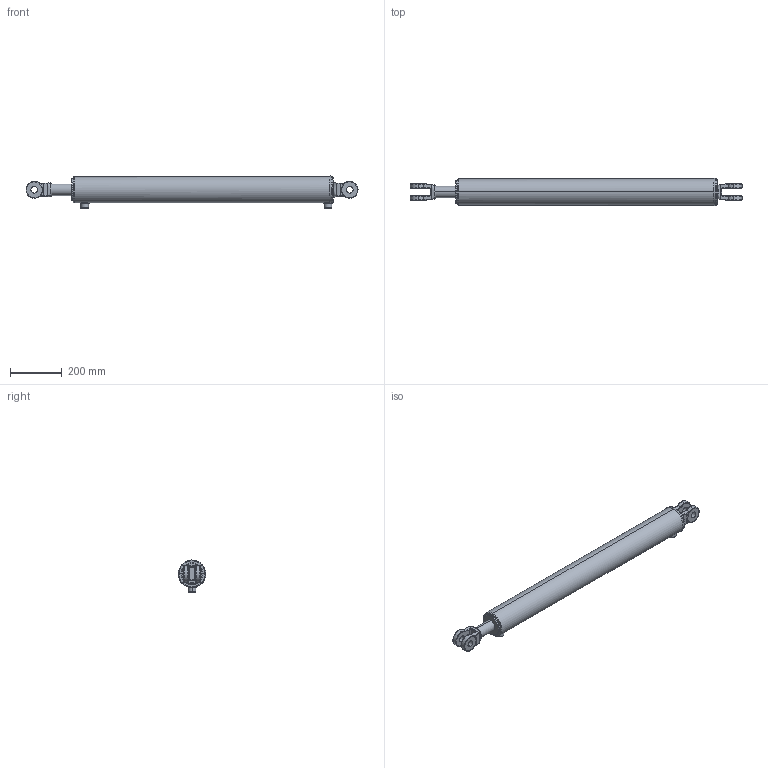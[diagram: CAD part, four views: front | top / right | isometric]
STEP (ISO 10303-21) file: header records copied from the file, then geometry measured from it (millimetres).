
FILE_DESCRIPTION (( 'STEP AP203' ), '1' );
FILE_NAME ('CL-CL350175x914 (36).STEP', '2014-11-22T16:59:03', ( '' ), ( '' ), 'SwSTEP 2.0', 'SolidWorks 2014', '' );
FILE_SCHEMA (( 'CONFIG_CONTROL_DESIGN' ));
Length unit declared in the file: millimetre
Products named in the file (4): CL-CL300150x  body_3.5x36; 3 in ext circlip; SPARE 6_36x1.75; CL-CL350175x914 (36)
Assembly tree (3 placements, depth 2):
  CL-CL350175x914 (36)
    CL-CL300150x  body_3.5x36
    3 in ext circlip
    SPARE 6_36x1.75
Bounding box: 1288.39 x 107.32 x 124.49 mm (x, y, z)
Volume: 9072051.3 mm3; surface area: 648589.6 mm2
Topology: 3 solids, 3 shells, 211 faces, 518 edges, 319 vertices
Faces by surface type: cylinder 91, bspline 59, plane 38, torus 15, cone 8
Entity records: 11321 total; most frequent: CARTESIAN_POINT 6234, ORIENTED_EDGE 1028, DIRECTION 941, EDGE_CURVE 514, AXIS2_PLACEMENT_3D 393, VERTEX_POINT 319, CIRCLE 235, EDGE_LOOP 233
